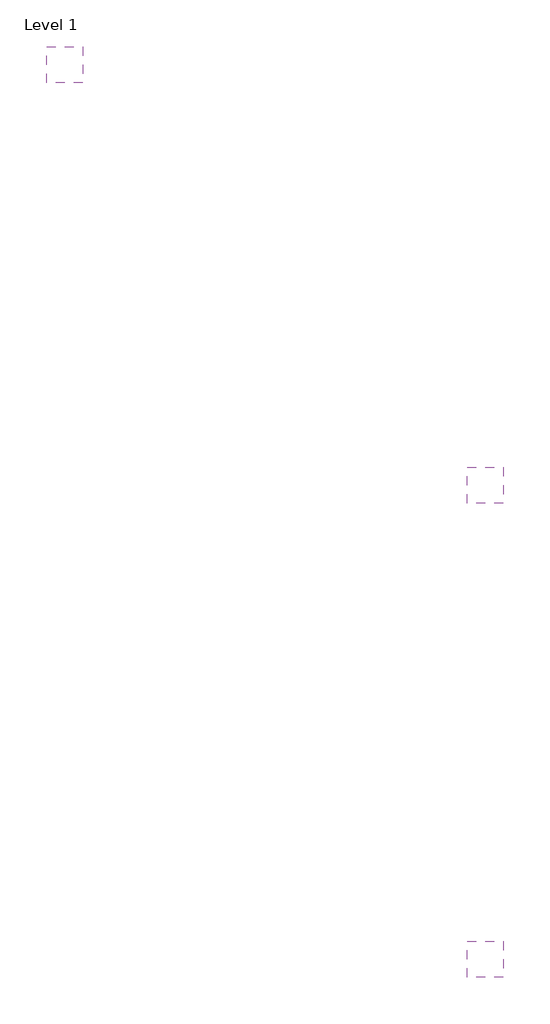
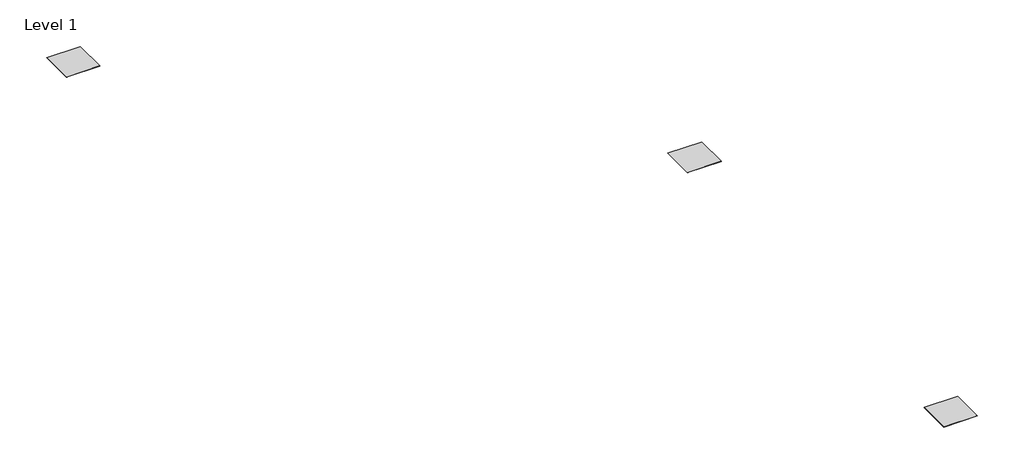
# One storey: 3 plates.
"""IFC4 building model written with IfcOpenShell, lengths in millimetres."""

from ifc_helpers import new_model, si_unit, origin, place, context, project, spatial, transform, mapped, element, save
from components import plate_562299b5

model = new_model("IFC4")

# Units and contexts
model_context = context("Model", 3, world=origin())
ifc_project = project(units=[si_unit("LENGTHUNIT", "METRE", prefix="MILLI")], contexts=[model_context])

# Site, building, storey
site = spatial("IfcSite", under=ifc_project)
building = spatial("IfcBuilding", under=site)
storey = spatial("IfcBuildingStorey", under=building, Name="Level 1", Elevation=0.0)

# Plates
placement = place(None, origin())
plate_shape = plate_562299b5(model_context)
element("IfcPlate", 1, ObjectType="Construction_Ceilings_Qwel-Tiles_Flat-Molded-Acoustic-Ceiling-Tiles : Flat Tile (Charcoal Heather)", at=placement, inside=storey, context=model_context, shape_type="MappedRepresentation", body=[
    mapped(plate_shape, transform((-3635.6328019, 9535.9784964, 6096.0), x_axis=(1.0, 0.0, 0.0), y_axis=(0.0, 0.0, -1.0), z_axis=(0.0, 1.0, 0.0))),
])
element("IfcPlate", 2, ObjectType="Construction_Ceilings_Qwel-Tiles_Flat-Molded-Acoustic-Ceiling-Tiles : Flat Tile (Sandstone Heather)", at=placement, inside=storey, context=model_context, shape_type="MappedRepresentation", body=[
    mapped(plate_shape, transform((-3635.6328019, 1611.1784964, 6096.0), x_axis=(1.0, 0.0, 0.0), y_axis=(0.0, 0.0, -1.0), z_axis=(0.0, 1.0, 0.0))),
])
element("IfcPlate", 3, ObjectType="Construction_Ceilings_Qwel-Tiles_Flat-Molded-Acoustic-Ceiling-Tiles : Flat Tile (Solid Black)", at=placement, inside=storey, context=model_context, shape_type="MappedRepresentation", body=[
    mapped(plate_shape, transform((-10665.0828019, 16565.4284964, 6096.0), x_axis=(1.0, 0.0, 0.0), y_axis=(0.0, 0.0, -1.0), z_axis=(0.0, 1.0, 0.0))),
])

save(model, "model.ifc")
